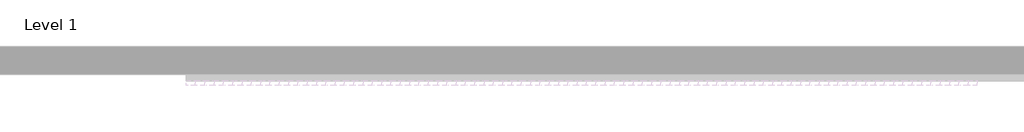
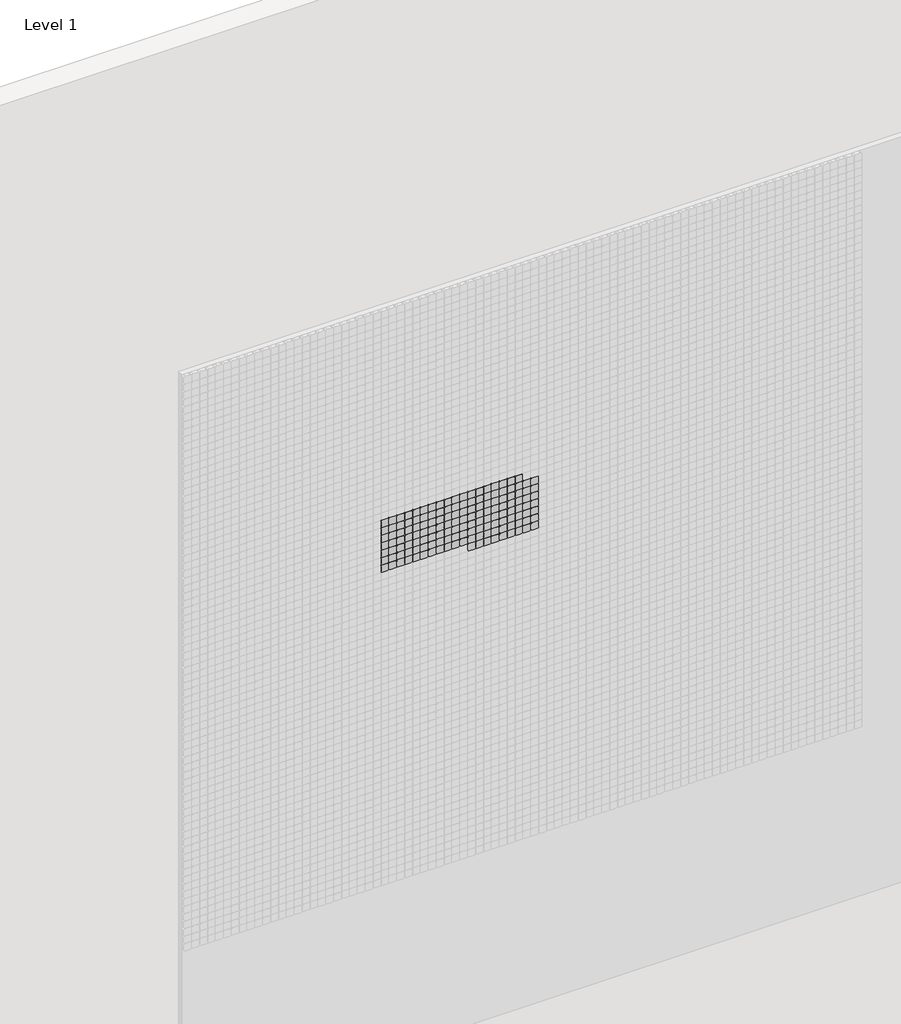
# One storey, part 25 of 71: 147 proxies.
"""IFC4 building model written with IfcOpenShell, lengths in millimetres."""

from ifc_helpers import new_model, si_unit, origin, place, context, project, spatial, transform, mapped, element, save
from components import generic_models_afde289c

model = new_model("IFC4")

# Units and contexts
model_context = context("Model", 3, world=origin())
ifc_project = project(units=[si_unit("LENGTHUNIT", "METRE", prefix="MILLI")], contexts=[model_context])

# Site, building, storey
site = spatial("IfcSite", under=ifc_project)
building = spatial("IfcBuilding", under=site)
storey = spatial("IfcBuildingStorey", under=building, Name="Level 1", Elevation=0.0)

# Proxies
placement = place(None, origin())
generic_models_shape = generic_models_afde289c(model_context)
element("IfcBuildingElementProxy", 1, Name="Pixel_M : Pixel_M", ObjectType="Pixel_M : Pixel_M", at=placement, inside=storey, context=model_context, shape_type="MappedRepresentation", body=[
    mapped(generic_models_shape, transform((6862.4280941, -75.0, 4566.3566215), x_axis=(1.0, 0.0, 0.0), y_axis=(0.0, 0.0, 1.0), z_axis=(0.0, -1.0, 0.0))),
])
element("IfcBuildingElementProxy", 2, Name="Pixel_M : Pixel_M", ObjectType="Pixel_M : Pixel_M", at=placement, inside=storey, context=model_context, shape_type="MappedRepresentation", body=[
    mapped(generic_models_shape, transform((6812.4280941, -75.0, 4566.3566215), x_axis=(1.0, 0.0, 0.0), y_axis=(0.0, 0.0, 1.0), z_axis=(0.0, -1.0, 0.0))),
])
element("IfcBuildingElementProxy", 3, Name="Pixel_M : Pixel_M", ObjectType="Pixel_M : Pixel_M", at=placement, inside=storey, context=model_context, shape_type="MappedRepresentation", body=[
    mapped(generic_models_shape, transform((6762.4280941, -75.0, 4566.3566215), x_axis=(1.0, 0.0, 0.0), y_axis=(0.0, 0.0, 1.0), z_axis=(0.0, -1.0, 0.0))),
])
element("IfcBuildingElementProxy", 4, Name="Pixel_M : Pixel_M", ObjectType="Pixel_M : Pixel_M", at=placement, inside=storey, context=model_context, shape_type="MappedRepresentation", body=[
    mapped(generic_models_shape, transform((6712.4280941, -75.0, 4566.3566215), x_axis=(1.0, 0.0, 0.0), y_axis=(0.0, 0.0, 1.0), z_axis=(0.0, -1.0, 0.0))),
])
element("IfcBuildingElementProxy", 5, Name="Pixel_M : Pixel_M", ObjectType="Pixel_M : Pixel_M", at=placement, inside=storey, context=model_context, shape_type="MappedRepresentation", body=[
    mapped(generic_models_shape, transform((6662.4280941, -75.0, 4566.3566215), x_axis=(1.0, 0.0, 0.0), y_axis=(0.0, 0.0, 1.0), z_axis=(0.0, -1.0, 0.0))),
])
element("IfcBuildingElementProxy", 6, Name="Pixel_M : Pixel_M", ObjectType="Pixel_M : Pixel_M", at=placement, inside=storey, context=model_context, shape_type="MappedRepresentation", body=[
    mapped(generic_models_shape, transform((6612.4280941, -75.0, 4566.3566215), x_axis=(1.0, 0.0, 0.0), y_axis=(0.0, 0.0, 1.0), z_axis=(0.0, -1.0, 0.0))),
])
element("IfcBuildingElementProxy", 7, Name="Pixel_M : Pixel_M", ObjectType="Pixel_M : Pixel_M", at=placement, inside=storey, context=model_context, shape_type="MappedRepresentation", body=[
    mapped(generic_models_shape, transform((6562.4280941, -75.0, 4566.3566215), x_axis=(1.0, 0.0, 0.0), y_axis=(0.0, 0.0, 1.0), z_axis=(0.0, -1.0, 0.0))),
])
element("IfcBuildingElementProxy", 8, Name="Pixel_M : Pixel_M", ObjectType="Pixel_M : Pixel_M", at=placement, inside=storey, context=model_context, shape_type="MappedRepresentation", body=[
    mapped(generic_models_shape, transform((6512.4280941, -75.0, 4566.3566215), x_axis=(1.0, 0.0, 0.0), y_axis=(0.0, 0.0, 1.0), z_axis=(0.0, -1.0, 0.0))),
])
element("IfcBuildingElementProxy", 9, Name="Pixel_M : Pixel_M", ObjectType="Pixel_M : Pixel_M", at=placement, inside=storey, context=model_context, shape_type="MappedRepresentation", body=[
    mapped(generic_models_shape, transform((6462.4280941, -75.0, 4566.3566215), x_axis=(1.0, 0.0, 0.0), y_axis=(0.0, 0.0, 1.0), z_axis=(0.0, -1.0, 0.0))),
])
element("IfcBuildingElementProxy", 10, Name="Pixel_M : Pixel_M", ObjectType="Pixel_M : Pixel_M", at=placement, inside=storey, context=model_context, shape_type="MappedRepresentation", body=[
    mapped(generic_models_shape, transform((6412.4280941, -75.0, 4566.3566215), x_axis=(1.0, 0.0, 0.0), y_axis=(0.0, 0.0, 1.0), z_axis=(0.0, -1.0, 0.0))),
])
element("IfcBuildingElementProxy", 11, Name="Pixel_M : Pixel_M", ObjectType="Pixel_M : Pixel_M", at=placement, inside=storey, context=model_context, shape_type="MappedRepresentation", body=[
    mapped(generic_models_shape, transform((6362.4280941, -75.0, 4566.3566215), x_axis=(1.0, 0.0, 0.0), y_axis=(0.0, 0.0, 1.0), z_axis=(0.0, -1.0, 0.0))),
])
element("IfcBuildingElementProxy", 12, Name="Pixel_M : Pixel_M", ObjectType="Pixel_M : Pixel_M", at=placement, inside=storey, context=model_context, shape_type="MappedRepresentation", body=[
    mapped(generic_models_shape, transform((6312.4280941, -75.0, 4566.3566215), x_axis=(1.0, 0.0, 0.0), y_axis=(0.0, 0.0, 1.0), z_axis=(0.0, -1.0, 0.0))),
])
element("IfcBuildingElementProxy", 13, Name="Pixel_M : Pixel_M", ObjectType="Pixel_M : Pixel_M", at=placement, inside=storey, context=model_context, shape_type="MappedRepresentation", body=[
    mapped(generic_models_shape, transform((6262.4280941, -75.0, 4566.3566215), x_axis=(1.0, 0.0, 0.0), y_axis=(0.0, 0.0, 1.0), z_axis=(0.0, -1.0, 0.0))),
])
element("IfcBuildingElementProxy", 14, Name="Pixel_M : Pixel_M", ObjectType="Pixel_M : Pixel_M", at=placement, inside=storey, context=model_context, shape_type="MappedRepresentation", body=[
    mapped(generic_models_shape, transform((6212.4280941, -75.0, 4566.3566215), x_axis=(1.0, 0.0, 0.0), y_axis=(0.0, 0.0, 1.0), z_axis=(0.0, -1.0, 0.0))),
])
element("IfcBuildingElementProxy", 15, Name="Pixel_M : Pixel_M", ObjectType="Pixel_M : Pixel_M", at=placement, inside=storey, context=model_context, shape_type="MappedRepresentation", body=[
    mapped(generic_models_shape, transform((6162.4280941, -75.0, 4566.3566215), x_axis=(1.0, 0.0, 0.0), y_axis=(0.0, 0.0, 1.0), z_axis=(0.0, -1.0, 0.0))),
])
element("IfcBuildingElementProxy", 16, Name="Pixel_M : Pixel_M", ObjectType="Pixel_M : Pixel_M", at=placement, inside=storey, context=model_context, shape_type="MappedRepresentation", body=[
    mapped(generic_models_shape, transform((6112.4280941, -75.0, 4566.3566215), x_axis=(1.0, 0.0, 0.0), y_axis=(0.0, 0.0, 1.0), z_axis=(0.0, -1.0, 0.0))),
])
element("IfcBuildingElementProxy", 17, Name="Pixel_M : Pixel_M", ObjectType="Pixel_M : Pixel_M", at=placement, inside=storey, context=model_context, shape_type="MappedRepresentation", body=[
    mapped(generic_models_shape, transform((6062.4280941, -75.0, 4566.3566215), x_axis=(1.0, 0.0, 0.0), y_axis=(0.0, 0.0, 1.0), z_axis=(0.0, -1.0, 0.0))),
])
element("IfcBuildingElementProxy", 18, Name="Pixel_M : Pixel_M", ObjectType="Pixel_M : Pixel_M", at=placement, inside=storey, context=model_context, shape_type="MappedRepresentation", body=[
    mapped(generic_models_shape, transform((6012.4280941, -75.0, 4566.3566215), x_axis=(1.0, 0.0, 0.0), y_axis=(0.0, 0.0, 1.0), z_axis=(0.0, -1.0, 0.0))),
])
element("IfcBuildingElementProxy", 19, Name="Pixel_M : Pixel_M", ObjectType="Pixel_M : Pixel_M", at=placement, inside=storey, context=model_context, shape_type="MappedRepresentation", body=[
    mapped(generic_models_shape, transform((6962.4280941, -75.0, 4516.3566215), x_axis=(1.0, 0.0, 0.0), y_axis=(0.0, 0.0, 1.0), z_axis=(0.0, -1.0, 0.0))),
])
element("IfcBuildingElementProxy", 20, Name="Pixel_M : Pixel_M", ObjectType="Pixel_M : Pixel_M", at=placement, inside=storey, context=model_context, shape_type="MappedRepresentation", body=[
    mapped(generic_models_shape, transform((6912.4280941, -75.0, 4516.3566215), x_axis=(1.0, 0.0, 0.0), y_axis=(0.0, 0.0, 1.0), z_axis=(0.0, -1.0, 0.0))),
])
element("IfcBuildingElementProxy", 21, Name="Pixel_M : Pixel_M", ObjectType="Pixel_M : Pixel_M", at=placement, inside=storey, context=model_context, shape_type="MappedRepresentation", body=[
    mapped(generic_models_shape, transform((6862.4280941, -75.0, 4516.3566215), x_axis=(1.0, 0.0, 0.0), y_axis=(0.0, 0.0, 1.0), z_axis=(0.0, -1.0, 0.0))),
])
element("IfcBuildingElementProxy", 22, Name="Pixel_M : Pixel_M", ObjectType="Pixel_M : Pixel_M", at=placement, inside=storey, context=model_context, shape_type="MappedRepresentation", body=[
    mapped(generic_models_shape, transform((6812.4280941, -75.0, 4516.3566215), x_axis=(1.0, 0.0, 0.0), y_axis=(0.0, 0.0, 1.0), z_axis=(0.0, -1.0, 0.0))),
])
element("IfcBuildingElementProxy", 23, Name="Pixel_M : Pixel_M", ObjectType="Pixel_M : Pixel_M", at=placement, inside=storey, context=model_context, shape_type="MappedRepresentation", body=[
    mapped(generic_models_shape, transform((6762.4280941, -75.0, 4516.3566215), x_axis=(1.0, 0.0, 0.0), y_axis=(0.0, 0.0, 1.0), z_axis=(0.0, -1.0, 0.0))),
])
element("IfcBuildingElementProxy", 24, Name="Pixel_M : Pixel_M", ObjectType="Pixel_M : Pixel_M", at=placement, inside=storey, context=model_context, shape_type="MappedRepresentation", body=[
    mapped(generic_models_shape, transform((6712.4280941, -75.0, 4516.3566215), x_axis=(1.0, 0.0, 0.0), y_axis=(0.0, 0.0, 1.0), z_axis=(0.0, -1.0, 0.0))),
])
element("IfcBuildingElementProxy", 25, Name="Pixel_M : Pixel_M", ObjectType="Pixel_M : Pixel_M", at=placement, inside=storey, context=model_context, shape_type="MappedRepresentation", body=[
    mapped(generic_models_shape, transform((6662.4280941, -75.0, 4516.3566215), x_axis=(1.0, 0.0, 0.0), y_axis=(0.0, 0.0, 1.0), z_axis=(0.0, -1.0, 0.0))),
])
element("IfcBuildingElementProxy", 26, Name="Pixel_M : Pixel_M", ObjectType="Pixel_M : Pixel_M", at=placement, inside=storey, context=model_context, shape_type="MappedRepresentation", body=[
    mapped(generic_models_shape, transform((6612.4280941, -75.0, 4516.3566215), x_axis=(1.0, 0.0, 0.0), y_axis=(0.0, 0.0, 1.0), z_axis=(0.0, -1.0, 0.0))),
])
element("IfcBuildingElementProxy", 27, Name="Pixel_M : Pixel_M", ObjectType="Pixel_M : Pixel_M", at=placement, inside=storey, context=model_context, shape_type="MappedRepresentation", body=[
    mapped(generic_models_shape, transform((6562.4280941, -75.0, 4516.3566215), x_axis=(1.0, 0.0, 0.0), y_axis=(0.0, 0.0, 1.0), z_axis=(0.0, -1.0, 0.0))),
])
element("IfcBuildingElementProxy", 28, Name="Pixel_M : Pixel_M", ObjectType="Pixel_M : Pixel_M", at=placement, inside=storey, context=model_context, shape_type="MappedRepresentation", body=[
    mapped(generic_models_shape, transform((6512.4280941, -75.0, 4516.3566215), x_axis=(1.0, 0.0, 0.0), y_axis=(0.0, 0.0, 1.0), z_axis=(0.0, -1.0, 0.0))),
])
element("IfcBuildingElementProxy", 29, Name="Pixel_M : Pixel_M", ObjectType="Pixel_M : Pixel_M", at=placement, inside=storey, context=model_context, shape_type="MappedRepresentation", body=[
    mapped(generic_models_shape, transform((6462.4280941, -75.0, 4516.3566215), x_axis=(1.0, 0.0, 0.0), y_axis=(0.0, 0.0, 1.0), z_axis=(0.0, -1.0, 0.0))),
])
element("IfcBuildingElementProxy", 30, Name="Pixel_M : Pixel_M", ObjectType="Pixel_M : Pixel_M", at=placement, inside=storey, context=model_context, shape_type="MappedRepresentation", body=[
    mapped(generic_models_shape, transform((6412.4280941, -75.0, 4516.3566215), x_axis=(1.0, 0.0, 0.0), y_axis=(0.0, 0.0, 1.0), z_axis=(0.0, -1.0, 0.0))),
])
element("IfcBuildingElementProxy", 31, Name="Pixel_M : Pixel_M", ObjectType="Pixel_M : Pixel_M", at=placement, inside=storey, context=model_context, shape_type="MappedRepresentation", body=[
    mapped(generic_models_shape, transform((6362.4280941, -75.0, 4516.3566215), x_axis=(1.0, 0.0, 0.0), y_axis=(0.0, 0.0, 1.0), z_axis=(0.0, -1.0, 0.0))),
])
element("IfcBuildingElementProxy", 32, Name="Pixel_M : Pixel_M", ObjectType="Pixel_M : Pixel_M", at=placement, inside=storey, context=model_context, shape_type="MappedRepresentation", body=[
    mapped(generic_models_shape, transform((6312.4280941, -75.0, 4516.3566215), x_axis=(1.0, 0.0, 0.0), y_axis=(0.0, 0.0, 1.0), z_axis=(0.0, -1.0, 0.0))),
])
element("IfcBuildingElementProxy", 33, Name="Pixel_M : Pixel_M", ObjectType="Pixel_M : Pixel_M", at=placement, inside=storey, context=model_context, shape_type="MappedRepresentation", body=[
    mapped(generic_models_shape, transform((6262.4280941, -75.0, 4516.3566215), x_axis=(1.0, 0.0, 0.0), y_axis=(0.0, 0.0, 1.0), z_axis=(0.0, -1.0, 0.0))),
])
element("IfcBuildingElementProxy", 34, Name="Pixel_M : Pixel_M", ObjectType="Pixel_M : Pixel_M", at=placement, inside=storey, context=model_context, shape_type="MappedRepresentation", body=[
    mapped(generic_models_shape, transform((6212.4280941, -75.0, 4516.3566215), x_axis=(1.0, 0.0, 0.0), y_axis=(0.0, 0.0, 1.0), z_axis=(0.0, -1.0, 0.0))),
])
element("IfcBuildingElementProxy", 35, Name="Pixel_M : Pixel_M", ObjectType="Pixel_M : Pixel_M", at=placement, inside=storey, context=model_context, shape_type="MappedRepresentation", body=[
    mapped(generic_models_shape, transform((6162.4280941, -75.0, 4516.3566215), x_axis=(1.0, 0.0, 0.0), y_axis=(0.0, 0.0, 1.0), z_axis=(0.0, -1.0, 0.0))),
])
element("IfcBuildingElementProxy", 36, Name="Pixel_M : Pixel_M", ObjectType="Pixel_M : Pixel_M", at=placement, inside=storey, context=model_context, shape_type="MappedRepresentation", body=[
    mapped(generic_models_shape, transform((6112.4280941, -75.0, 4516.3566215), x_axis=(1.0, 0.0, 0.0), y_axis=(0.0, 0.0, 1.0), z_axis=(0.0, -1.0, 0.0))),
])
element("IfcBuildingElementProxy", 37, Name="Pixel_M : Pixel_M", ObjectType="Pixel_M : Pixel_M", at=placement, inside=storey, context=model_context, shape_type="MappedRepresentation", body=[
    mapped(generic_models_shape, transform((6062.4280941, -75.0, 4516.3566215), x_axis=(1.0, 0.0, 0.0), y_axis=(0.0, 0.0, 1.0), z_axis=(0.0, -1.0, 0.0))),
])
element("IfcBuildingElementProxy", 38, Name="Pixel_M : Pixel_M", ObjectType="Pixel_M : Pixel_M", at=placement, inside=storey, context=model_context, shape_type="MappedRepresentation", body=[
    mapped(generic_models_shape, transform((6012.4280941, -75.0, 4516.3566215), x_axis=(1.0, 0.0, 0.0), y_axis=(0.0, 0.0, 1.0), z_axis=(0.0, -1.0, 0.0))),
])
element("IfcBuildingElementProxy", 39, Name="Pixel_M : Pixel_M", ObjectType="Pixel_M : Pixel_M", at=placement, inside=storey, context=model_context, shape_type="MappedRepresentation", body=[
    mapped(generic_models_shape, transform((6962.4280941, -75.0, 4466.3566215), x_axis=(1.0, 0.0, 0.0), y_axis=(0.0, 0.0, 1.0), z_axis=(0.0, -1.0, 0.0))),
])
element("IfcBuildingElementProxy", 40, Name="Pixel_M : Pixel_M", ObjectType="Pixel_M : Pixel_M", at=placement, inside=storey, context=model_context, shape_type="MappedRepresentation", body=[
    mapped(generic_models_shape, transform((6912.4280941, -75.0, 4466.3566215), x_axis=(1.0, 0.0, 0.0), y_axis=(0.0, 0.0, 1.0), z_axis=(0.0, -1.0, 0.0))),
])
element("IfcBuildingElementProxy", 41, Name="Pixel_M : Pixel_M", ObjectType="Pixel_M : Pixel_M", at=placement, inside=storey, context=model_context, shape_type="MappedRepresentation", body=[
    mapped(generic_models_shape, transform((6862.4280941, -75.0, 4466.3566215), x_axis=(1.0, 0.0, 0.0), y_axis=(0.0, 0.0, 1.0), z_axis=(0.0, -1.0, 0.0))),
])
element("IfcBuildingElementProxy", 42, Name="Pixel_M : Pixel_M", ObjectType="Pixel_M : Pixel_M", at=placement, inside=storey, context=model_context, shape_type="MappedRepresentation", body=[
    mapped(generic_models_shape, transform((6812.4280941, -75.0, 4466.3566215), x_axis=(1.0, 0.0, 0.0), y_axis=(0.0, 0.0, 1.0), z_axis=(0.0, -1.0, 0.0))),
])
element("IfcBuildingElementProxy", 43, Name="Pixel_M : Pixel_M", ObjectType="Pixel_M : Pixel_M", at=placement, inside=storey, context=model_context, shape_type="MappedRepresentation", body=[
    mapped(generic_models_shape, transform((6762.4280941, -75.0, 4466.3566215), x_axis=(1.0, 0.0, 0.0), y_axis=(0.0, 0.0, 1.0), z_axis=(0.0, -1.0, 0.0))),
])
element("IfcBuildingElementProxy", 44, Name="Pixel_M : Pixel_M", ObjectType="Pixel_M : Pixel_M", at=placement, inside=storey, context=model_context, shape_type="MappedRepresentation", body=[
    mapped(generic_models_shape, transform((6712.4280941, -75.0, 4466.3566215), x_axis=(1.0, 0.0, 0.0), y_axis=(0.0, 0.0, 1.0), z_axis=(0.0, -1.0, 0.0))),
])
element("IfcBuildingElementProxy", 45, Name="Pixel_M : Pixel_M", ObjectType="Pixel_M : Pixel_M", at=placement, inside=storey, context=model_context, shape_type="MappedRepresentation", body=[
    mapped(generic_models_shape, transform((6662.4280941, -75.0, 4466.3566215), x_axis=(1.0, 0.0, 0.0), y_axis=(0.0, 0.0, 1.0), z_axis=(0.0, -1.0, 0.0))),
])
element("IfcBuildingElementProxy", 46, Name="Pixel_M : Pixel_M", ObjectType="Pixel_M : Pixel_M", at=placement, inside=storey, context=model_context, shape_type="MappedRepresentation", body=[
    mapped(generic_models_shape, transform((6612.4280941, -75.0, 4466.3566215), x_axis=(1.0, 0.0, 0.0), y_axis=(0.0, 0.0, 1.0), z_axis=(0.0, -1.0, 0.0))),
])
element("IfcBuildingElementProxy", 47, Name="Pixel_M : Pixel_M", ObjectType="Pixel_M : Pixel_M", at=placement, inside=storey, context=model_context, shape_type="MappedRepresentation", body=[
    mapped(generic_models_shape, transform((6562.4280941, -75.0, 4466.3566215), x_axis=(1.0, 0.0, 0.0), y_axis=(0.0, 0.0, 1.0), z_axis=(0.0, -1.0, 0.0))),
])
element("IfcBuildingElementProxy", 48, Name="Pixel_M : Pixel_M", ObjectType="Pixel_M : Pixel_M", at=placement, inside=storey, context=model_context, shape_type="MappedRepresentation", body=[
    mapped(generic_models_shape, transform((6512.4280941, -75.0, 4466.3566215), x_axis=(1.0, 0.0, 0.0), y_axis=(0.0, 0.0, 1.0), z_axis=(0.0, -1.0, 0.0))),
])
element("IfcBuildingElementProxy", 49, Name="Pixel_M : Pixel_M", ObjectType="Pixel_M : Pixel_M", at=placement, inside=storey, context=model_context, shape_type="MappedRepresentation", body=[
    mapped(generic_models_shape, transform((6462.4280941, -75.0, 4466.3566215), x_axis=(1.0, 0.0, 0.0), y_axis=(0.0, 0.0, 1.0), z_axis=(0.0, -1.0, 0.0))),
])
element("IfcBuildingElementProxy", 50, Name="Pixel_M : Pixel_M", ObjectType="Pixel_M : Pixel_M", at=placement, inside=storey, context=model_context, shape_type="MappedRepresentation", body=[
    mapped(generic_models_shape, transform((6412.4280941, -75.0, 4466.3566215), x_axis=(1.0, 0.0, 0.0), y_axis=(0.0, 0.0, 1.0), z_axis=(0.0, -1.0, 0.0))),
])
element("IfcBuildingElementProxy", 51, Name="Pixel_M : Pixel_M", ObjectType="Pixel_M : Pixel_M", at=placement, inside=storey, context=model_context, shape_type="MappedRepresentation", body=[
    mapped(generic_models_shape, transform((6362.4280941, -75.0, 4466.3566215), x_axis=(1.0, 0.0, 0.0), y_axis=(0.0, 0.0, 1.0), z_axis=(0.0, -1.0, 0.0))),
])
element("IfcBuildingElementProxy", 52, Name="Pixel_M : Pixel_M", ObjectType="Pixel_M : Pixel_M", at=placement, inside=storey, context=model_context, shape_type="MappedRepresentation", body=[
    mapped(generic_models_shape, transform((6312.4280941, -75.0, 4466.3566215), x_axis=(1.0, 0.0, 0.0), y_axis=(0.0, 0.0, 1.0), z_axis=(0.0, -1.0, 0.0))),
])
element("IfcBuildingElementProxy", 53, Name="Pixel_M : Pixel_M", ObjectType="Pixel_M : Pixel_M", at=placement, inside=storey, context=model_context, shape_type="MappedRepresentation", body=[
    mapped(generic_models_shape, transform((6262.4280941, -75.0, 4466.3566215), x_axis=(1.0, 0.0, 0.0), y_axis=(0.0, 0.0, 1.0), z_axis=(0.0, -1.0, 0.0))),
])
element("IfcBuildingElementProxy", 54, Name="Pixel_M : Pixel_M", ObjectType="Pixel_M : Pixel_M", at=placement, inside=storey, context=model_context, shape_type="MappedRepresentation", body=[
    mapped(generic_models_shape, transform((6212.4280941, -75.0, 4466.3566215), x_axis=(1.0, 0.0, 0.0), y_axis=(0.0, 0.0, 1.0), z_axis=(0.0, -1.0, 0.0))),
])
element("IfcBuildingElementProxy", 55, Name="Pixel_M : Pixel_M", ObjectType="Pixel_M : Pixel_M", at=placement, inside=storey, context=model_context, shape_type="MappedRepresentation", body=[
    mapped(generic_models_shape, transform((6162.4280941, -75.0, 4466.3566215), x_axis=(1.0, 0.0, 0.0), y_axis=(0.0, 0.0, 1.0), z_axis=(0.0, -1.0, 0.0))),
])
element("IfcBuildingElementProxy", 56, Name="Pixel_M : Pixel_M", ObjectType="Pixel_M : Pixel_M", at=placement, inside=storey, context=model_context, shape_type="MappedRepresentation", body=[
    mapped(generic_models_shape, transform((6112.4280941, -75.0, 4466.3566215), x_axis=(1.0, 0.0, 0.0), y_axis=(0.0, 0.0, 1.0), z_axis=(0.0, -1.0, 0.0))),
])
element("IfcBuildingElementProxy", 57, Name="Pixel_M : Pixel_M", ObjectType="Pixel_M : Pixel_M", at=placement, inside=storey, context=model_context, shape_type="MappedRepresentation", body=[
    mapped(generic_models_shape, transform((6062.4280941, -75.0, 4466.3566215), x_axis=(1.0, 0.0, 0.0), y_axis=(0.0, 0.0, 1.0), z_axis=(0.0, -1.0, 0.0))),
])
element("IfcBuildingElementProxy", 58, Name="Pixel_M : Pixel_M", ObjectType="Pixel_M : Pixel_M", at=placement, inside=storey, context=model_context, shape_type="MappedRepresentation", body=[
    mapped(generic_models_shape, transform((6012.4280941, -75.0, 4466.3566215), x_axis=(1.0, 0.0, 0.0), y_axis=(0.0, 0.0, 1.0), z_axis=(0.0, -1.0, 0.0))),
])
element("IfcBuildingElementProxy", 59, Name="Pixel_M : Pixel_M", ObjectType="Pixel_M : Pixel_M", at=placement, inside=storey, context=model_context, shape_type="MappedRepresentation", body=[
    mapped(generic_models_shape, transform((6962.4280941, -75.0, 4416.3566215), x_axis=(1.0, 0.0, 0.0), y_axis=(0.0, 0.0, 1.0), z_axis=(0.0, -1.0, 0.0))),
])
element("IfcBuildingElementProxy", 60, Name="Pixel_M : Pixel_M", ObjectType="Pixel_M : Pixel_M", at=placement, inside=storey, context=model_context, shape_type="MappedRepresentation", body=[
    mapped(generic_models_shape, transform((6912.4280941, -75.0, 4416.3566215), x_axis=(1.0, 0.0, 0.0), y_axis=(0.0, 0.0, 1.0), z_axis=(0.0, -1.0, 0.0))),
])
element("IfcBuildingElementProxy", 61, Name="Pixel_M : Pixel_M", ObjectType="Pixel_M : Pixel_M", at=placement, inside=storey, context=model_context, shape_type="MappedRepresentation", body=[
    mapped(generic_models_shape, transform((6862.4280941, -75.0, 4416.3566215), x_axis=(1.0, 0.0, 0.0), y_axis=(0.0, 0.0, 1.0), z_axis=(0.0, -1.0, 0.0))),
])
element("IfcBuildingElementProxy", 62, Name="Pixel_M : Pixel_M", ObjectType="Pixel_M : Pixel_M", at=placement, inside=storey, context=model_context, shape_type="MappedRepresentation", body=[
    mapped(generic_models_shape, transform((6812.4280941, -75.0, 4416.3566215), x_axis=(1.0, 0.0, 0.0), y_axis=(0.0, 0.0, 1.0), z_axis=(0.0, -1.0, 0.0))),
])
element("IfcBuildingElementProxy", 63, Name="Pixel_M : Pixel_M", ObjectType="Pixel_M : Pixel_M", at=placement, inside=storey, context=model_context, shape_type="MappedRepresentation", body=[
    mapped(generic_models_shape, transform((6762.4280941, -75.0, 4416.3566215), x_axis=(1.0, 0.0, 0.0), y_axis=(0.0, 0.0, 1.0), z_axis=(0.0, -1.0, 0.0))),
])
element("IfcBuildingElementProxy", 64, Name="Pixel_M : Pixel_M", ObjectType="Pixel_M : Pixel_M", at=placement, inside=storey, context=model_context, shape_type="MappedRepresentation", body=[
    mapped(generic_models_shape, transform((6712.4280941, -75.0, 4416.3566215), x_axis=(1.0, 0.0, 0.0), y_axis=(0.0, 0.0, 1.0), z_axis=(0.0, -1.0, 0.0))),
])
element("IfcBuildingElementProxy", 65, Name="Pixel_M : Pixel_M", ObjectType="Pixel_M : Pixel_M", at=placement, inside=storey, context=model_context, shape_type="MappedRepresentation", body=[
    mapped(generic_models_shape, transform((6662.4280941, -75.0, 4416.3566215), x_axis=(1.0, 0.0, 0.0), y_axis=(0.0, 0.0, 1.0), z_axis=(0.0, -1.0, 0.0))),
])
element("IfcBuildingElementProxy", 66, Name="Pixel_M : Pixel_M", ObjectType="Pixel_M : Pixel_M", at=placement, inside=storey, context=model_context, shape_type="MappedRepresentation", body=[
    mapped(generic_models_shape, transform((6612.4280941, -75.0, 4416.3566215), x_axis=(1.0, 0.0, 0.0), y_axis=(0.0, 0.0, 1.0), z_axis=(0.0, -1.0, 0.0))),
])
element("IfcBuildingElementProxy", 67, Name="Pixel_M : Pixel_M", ObjectType="Pixel_M : Pixel_M", at=placement, inside=storey, context=model_context, shape_type="MappedRepresentation", body=[
    mapped(generic_models_shape, transform((6562.4280941, -75.0, 4416.3566215), x_axis=(1.0, 0.0, 0.0), y_axis=(0.0, 0.0, 1.0), z_axis=(0.0, -1.0, 0.0))),
])
element("IfcBuildingElementProxy", 68, Name="Pixel_M : Pixel_M", ObjectType="Pixel_M : Pixel_M", at=placement, inside=storey, context=model_context, shape_type="MappedRepresentation", body=[
    mapped(generic_models_shape, transform((6512.4280941, -75.0, 4416.3566215), x_axis=(1.0, 0.0, 0.0), y_axis=(0.0, 0.0, 1.0), z_axis=(0.0, -1.0, 0.0))),
])
element("IfcBuildingElementProxy", 69, Name="Pixel_M : Pixel_M", ObjectType="Pixel_M : Pixel_M", at=placement, inside=storey, context=model_context, shape_type="MappedRepresentation", body=[
    mapped(generic_models_shape, transform((6462.4280941, -75.0, 4416.3566215), x_axis=(1.0, 0.0, 0.0), y_axis=(0.0, 0.0, 1.0), z_axis=(0.0, -1.0, 0.0))),
])
element("IfcBuildingElementProxy", 70, Name="Pixel_M : Pixel_M", ObjectType="Pixel_M : Pixel_M", at=placement, inside=storey, context=model_context, shape_type="MappedRepresentation", body=[
    mapped(generic_models_shape, transform((6412.4280941, -75.0, 4416.3566215), x_axis=(1.0, 0.0, 0.0), y_axis=(0.0, 0.0, 1.0), z_axis=(0.0, -1.0, 0.0))),
])
element("IfcBuildingElementProxy", 71, Name="Pixel_M : Pixel_M", ObjectType="Pixel_M : Pixel_M", at=placement, inside=storey, context=model_context, shape_type="MappedRepresentation", body=[
    mapped(generic_models_shape, transform((6362.4280941, -75.0, 4416.3566215), x_axis=(1.0, 0.0, 0.0), y_axis=(0.0, 0.0, 1.0), z_axis=(0.0, -1.0, 0.0))),
])
element("IfcBuildingElementProxy", 72, Name="Pixel_M : Pixel_M", ObjectType="Pixel_M : Pixel_M", at=placement, inside=storey, context=model_context, shape_type="MappedRepresentation", body=[
    mapped(generic_models_shape, transform((6312.4280941, -75.0, 4416.3566215), x_axis=(1.0, 0.0, 0.0), y_axis=(0.0, 0.0, 1.0), z_axis=(0.0, -1.0, 0.0))),
])
element("IfcBuildingElementProxy", 73, Name="Pixel_M : Pixel_M", ObjectType="Pixel_M : Pixel_M", at=placement, inside=storey, context=model_context, shape_type="MappedRepresentation", body=[
    mapped(generic_models_shape, transform((6262.4280941, -75.0, 4416.3566215), x_axis=(1.0, 0.0, 0.0), y_axis=(0.0, 0.0, 1.0), z_axis=(0.0, -1.0, 0.0))),
])
element("IfcBuildingElementProxy", 74, Name="Pixel_M : Pixel_M", ObjectType="Pixel_M : Pixel_M", at=placement, inside=storey, context=model_context, shape_type="MappedRepresentation", body=[
    mapped(generic_models_shape, transform((6212.4280941, -75.0, 4416.3566215), x_axis=(1.0, 0.0, 0.0), y_axis=(0.0, 0.0, 1.0), z_axis=(0.0, -1.0, 0.0))),
])
element("IfcBuildingElementProxy", 75, Name="Pixel_M : Pixel_M", ObjectType="Pixel_M : Pixel_M", at=placement, inside=storey, context=model_context, shape_type="MappedRepresentation", body=[
    mapped(generic_models_shape, transform((6162.4280941, -75.0, 4416.3566215), x_axis=(1.0, 0.0, 0.0), y_axis=(0.0, 0.0, 1.0), z_axis=(0.0, -1.0, 0.0))),
])
element("IfcBuildingElementProxy", 76, Name="Pixel_M : Pixel_M", ObjectType="Pixel_M : Pixel_M", at=placement, inside=storey, context=model_context, shape_type="MappedRepresentation", body=[
    mapped(generic_models_shape, transform((6112.4280941, -75.0, 4416.3566215), x_axis=(1.0, 0.0, 0.0), y_axis=(0.0, 0.0, 1.0), z_axis=(0.0, -1.0, 0.0))),
])
element("IfcBuildingElementProxy", 77, Name="Pixel_M : Pixel_M", ObjectType="Pixel_M : Pixel_M", at=placement, inside=storey, context=model_context, shape_type="MappedRepresentation", body=[
    mapped(generic_models_shape, transform((6062.4280941, -75.0, 4416.3566215), x_axis=(1.0, 0.0, 0.0), y_axis=(0.0, 0.0, 1.0), z_axis=(0.0, -1.0, 0.0))),
])
element("IfcBuildingElementProxy", 78, Name="Pixel_M : Pixel_M", ObjectType="Pixel_M : Pixel_M", at=placement, inside=storey, context=model_context, shape_type="MappedRepresentation", body=[
    mapped(generic_models_shape, transform((6012.4280941, -75.0, 4416.3566215), x_axis=(1.0, 0.0, 0.0), y_axis=(0.0, 0.0, 1.0), z_axis=(0.0, -1.0, 0.0))),
])
element("IfcBuildingElementProxy", 79, Name="Pixel_M : Pixel_M", ObjectType="Pixel_M : Pixel_M", at=placement, inside=storey, context=model_context, shape_type="MappedRepresentation", body=[
    mapped(generic_models_shape, transform((6962.4280941, -75.0, 4366.3566215), x_axis=(1.0, 0.0, 0.0), y_axis=(0.0, 0.0, 1.0), z_axis=(0.0, -1.0, 0.0))),
])
element("IfcBuildingElementProxy", 80, Name="Pixel_M : Pixel_M", ObjectType="Pixel_M : Pixel_M", at=placement, inside=storey, context=model_context, shape_type="MappedRepresentation", body=[
    mapped(generic_models_shape, transform((6912.4280941, -75.0, 4366.3566215), x_axis=(1.0, 0.0, 0.0), y_axis=(0.0, 0.0, 1.0), z_axis=(0.0, -1.0, 0.0))),
])
element("IfcBuildingElementProxy", 81, Name="Pixel_M : Pixel_M", ObjectType="Pixel_M : Pixel_M", at=placement, inside=storey, context=model_context, shape_type="MappedRepresentation", body=[
    mapped(generic_models_shape, transform((6862.4280941, -75.0, 4366.3566215), x_axis=(1.0, 0.0, 0.0), y_axis=(0.0, 0.0, 1.0), z_axis=(0.0, -1.0, 0.0))),
])
element("IfcBuildingElementProxy", 82, Name="Pixel_M : Pixel_M", ObjectType="Pixel_M : Pixel_M", at=placement, inside=storey, context=model_context, shape_type="MappedRepresentation", body=[
    mapped(generic_models_shape, transform((6812.4280941, -75.0, 4366.3566215), x_axis=(1.0, 0.0, 0.0), y_axis=(0.0, 0.0, 1.0), z_axis=(0.0, -1.0, 0.0))),
])
element("IfcBuildingElementProxy", 83, Name="Pixel_M : Pixel_M", ObjectType="Pixel_M : Pixel_M", at=placement, inside=storey, context=model_context, shape_type="MappedRepresentation", body=[
    mapped(generic_models_shape, transform((6762.4280941, -75.0, 4366.3566215), x_axis=(1.0, 0.0, 0.0), y_axis=(0.0, 0.0, 1.0), z_axis=(0.0, -1.0, 0.0))),
])
element("IfcBuildingElementProxy", 84, Name="Pixel_M : Pixel_M", ObjectType="Pixel_M : Pixel_M", at=placement, inside=storey, context=model_context, shape_type="MappedRepresentation", body=[
    mapped(generic_models_shape, transform((6712.4280941, -75.0, 4366.3566215), x_axis=(1.0, 0.0, 0.0), y_axis=(0.0, 0.0, 1.0), z_axis=(0.0, -1.0, 0.0))),
])
element("IfcBuildingElementProxy", 85, Name="Pixel_M : Pixel_M", ObjectType="Pixel_M : Pixel_M", at=placement, inside=storey, context=model_context, shape_type="MappedRepresentation", body=[
    mapped(generic_models_shape, transform((6662.4280941, -75.0, 4366.3566215), x_axis=(1.0, 0.0, 0.0), y_axis=(0.0, 0.0, 1.0), z_axis=(0.0, -1.0, 0.0))),
])
element("IfcBuildingElementProxy", 86, Name="Pixel_M : Pixel_M", ObjectType="Pixel_M : Pixel_M", at=placement, inside=storey, context=model_context, shape_type="MappedRepresentation", body=[
    mapped(generic_models_shape, transform((6612.4280941, -75.0, 4366.3566215), x_axis=(1.0, 0.0, 0.0), y_axis=(0.0, 0.0, 1.0), z_axis=(0.0, -1.0, 0.0))),
])
element("IfcBuildingElementProxy", 87, Name="Pixel_M : Pixel_M", ObjectType="Pixel_M : Pixel_M", at=placement, inside=storey, context=model_context, shape_type="MappedRepresentation", body=[
    mapped(generic_models_shape, transform((6562.4280941, -75.0, 4366.3566215), x_axis=(1.0, 0.0, 0.0), y_axis=(0.0, 0.0, 1.0), z_axis=(0.0, -1.0, 0.0))),
])
element("IfcBuildingElementProxy", 88, Name="Pixel_M : Pixel_M", ObjectType="Pixel_M : Pixel_M", at=placement, inside=storey, context=model_context, shape_type="MappedRepresentation", body=[
    mapped(generic_models_shape, transform((6512.4280941, -75.0, 4366.3566215), x_axis=(1.0, 0.0, 0.0), y_axis=(0.0, 0.0, 1.0), z_axis=(0.0, -1.0, 0.0))),
])
element("IfcBuildingElementProxy", 89, Name="Pixel_M : Pixel_M", ObjectType="Pixel_M : Pixel_M", at=placement, inside=storey, context=model_context, shape_type="MappedRepresentation", body=[
    mapped(generic_models_shape, transform((6462.4280941, -75.0, 4366.3566215), x_axis=(1.0, 0.0, 0.0), y_axis=(0.0, 0.0, 1.0), z_axis=(0.0, -1.0, 0.0))),
])
element("IfcBuildingElementProxy", 90, Name="Pixel_M : Pixel_M", ObjectType="Pixel_M : Pixel_M", at=placement, inside=storey, context=model_context, shape_type="MappedRepresentation", body=[
    mapped(generic_models_shape, transform((6412.4280941, -75.0, 4366.3566215), x_axis=(1.0, 0.0, 0.0), y_axis=(0.0, 0.0, 1.0), z_axis=(0.0, -1.0, 0.0))),
])
element("IfcBuildingElementProxy", 91, Name="Pixel_M : Pixel_M", ObjectType="Pixel_M : Pixel_M", at=placement, inside=storey, context=model_context, shape_type="MappedRepresentation", body=[
    mapped(generic_models_shape, transform((6362.4280941, -75.0, 4366.3566215), x_axis=(1.0, 0.0, 0.0), y_axis=(0.0, 0.0, 1.0), z_axis=(0.0, -1.0, 0.0))),
])
element("IfcBuildingElementProxy", 92, Name="Pixel_M : Pixel_M", ObjectType="Pixel_M : Pixel_M", at=placement, inside=storey, context=model_context, shape_type="MappedRepresentation", body=[
    mapped(generic_models_shape, transform((6312.4280941, -75.0, 4366.3566215), x_axis=(1.0, 0.0, 0.0), y_axis=(0.0, 0.0, 1.0), z_axis=(0.0, -1.0, 0.0))),
])
element("IfcBuildingElementProxy", 93, Name="Pixel_M : Pixel_M", ObjectType="Pixel_M : Pixel_M", at=placement, inside=storey, context=model_context, shape_type="MappedRepresentation", body=[
    mapped(generic_models_shape, transform((6262.4280941, -75.0, 4366.3566215), x_axis=(1.0, 0.0, 0.0), y_axis=(0.0, 0.0, 1.0), z_axis=(0.0, -1.0, 0.0))),
])
element("IfcBuildingElementProxy", 94, Name="Pixel_M : Pixel_M", ObjectType="Pixel_M : Pixel_M", at=placement, inside=storey, context=model_context, shape_type="MappedRepresentation", body=[
    mapped(generic_models_shape, transform((6212.4280941, -75.0, 4366.3566215), x_axis=(1.0, 0.0, 0.0), y_axis=(0.0, 0.0, 1.0), z_axis=(0.0, -1.0, 0.0))),
])
element("IfcBuildingElementProxy", 95, Name="Pixel_M : Pixel_M", ObjectType="Pixel_M : Pixel_M", at=placement, inside=storey, context=model_context, shape_type="MappedRepresentation", body=[
    mapped(generic_models_shape, transform((6162.4280941, -75.0, 4366.3566215), x_axis=(1.0, 0.0, 0.0), y_axis=(0.0, 0.0, 1.0), z_axis=(0.0, -1.0, 0.0))),
])
element("IfcBuildingElementProxy", 96, Name="Pixel_M : Pixel_M", ObjectType="Pixel_M : Pixel_M", at=placement, inside=storey, context=model_context, shape_type="MappedRepresentation", body=[
    mapped(generic_models_shape, transform((6112.4280941, -75.0, 4366.3566215), x_axis=(1.0, 0.0, 0.0), y_axis=(0.0, 0.0, 1.0), z_axis=(0.0, -1.0, 0.0))),
])
element("IfcBuildingElementProxy", 97, Name="Pixel_M : Pixel_M", ObjectType="Pixel_M : Pixel_M", at=placement, inside=storey, context=model_context, shape_type="MappedRepresentation", body=[
    mapped(generic_models_shape, transform((6062.4280941, -75.0, 4366.3566215), x_axis=(1.0, 0.0, 0.0), y_axis=(0.0, 0.0, 1.0), z_axis=(0.0, -1.0, 0.0))),
])
element("IfcBuildingElementProxy", 98, Name="Pixel_M : Pixel_M", ObjectType="Pixel_M : Pixel_M", at=placement, inside=storey, context=model_context, shape_type="MappedRepresentation", body=[
    mapped(generic_models_shape, transform((6012.4280941, -75.0, 4366.3566215), x_axis=(1.0, 0.0, 0.0), y_axis=(0.0, 0.0, 1.0), z_axis=(0.0, -1.0, 0.0))),
])
element("IfcBuildingElementProxy", 99, Name="Pixel_M : Pixel_M", ObjectType="Pixel_M : Pixel_M", at=placement, inside=storey, context=model_context, shape_type="MappedRepresentation", body=[
    mapped(generic_models_shape, transform((6962.4280941, -75.0, 4316.3566215), x_axis=(1.0, 0.0, 0.0), y_axis=(0.0, 0.0, 1.0), z_axis=(0.0, -1.0, 0.0))),
])
element("IfcBuildingElementProxy", 100, Name="Pixel_M : Pixel_M", ObjectType="Pixel_M : Pixel_M", at=placement, inside=storey, context=model_context, shape_type="MappedRepresentation", body=[
    mapped(generic_models_shape, transform((6912.4280941, -75.0, 4316.3566215), x_axis=(1.0, 0.0, 0.0), y_axis=(0.0, 0.0, 1.0), z_axis=(0.0, -1.0, 0.0))),
])
element("IfcBuildingElementProxy", 101, Name="Pixel_M : Pixel_M", ObjectType="Pixel_M : Pixel_M", at=placement, inside=storey, context=model_context, shape_type="MappedRepresentation", body=[
    mapped(generic_models_shape, transform((6862.4280941, -75.0, 4316.3566215), x_axis=(1.0, 0.0, 0.0), y_axis=(0.0, 0.0, 1.0), z_axis=(0.0, -1.0, 0.0))),
])
element("IfcBuildingElementProxy", 102, Name="Pixel_M : Pixel_M", ObjectType="Pixel_M : Pixel_M", at=placement, inside=storey, context=model_context, shape_type="MappedRepresentation", body=[
    mapped(generic_models_shape, transform((6812.4280941, -75.0, 4316.3566215), x_axis=(1.0, 0.0, 0.0), y_axis=(0.0, 0.0, 1.0), z_axis=(0.0, -1.0, 0.0))),
])
element("IfcBuildingElementProxy", 103, Name="Pixel_M : Pixel_M", ObjectType="Pixel_M : Pixel_M", at=placement, inside=storey, context=model_context, shape_type="MappedRepresentation", body=[
    mapped(generic_models_shape, transform((6762.4280941, -75.0, 4316.3566215), x_axis=(1.0, 0.0, 0.0), y_axis=(0.0, 0.0, 1.0), z_axis=(0.0, -1.0, 0.0))),
])
element("IfcBuildingElementProxy", 104, Name="Pixel_M : Pixel_M", ObjectType="Pixel_M : Pixel_M", at=placement, inside=storey, context=model_context, shape_type="MappedRepresentation", body=[
    mapped(generic_models_shape, transform((6712.4280941, -75.0, 4316.3566215), x_axis=(1.0, 0.0, 0.0), y_axis=(0.0, 0.0, 1.0), z_axis=(0.0, -1.0, 0.0))),
])
element("IfcBuildingElementProxy", 105, Name="Pixel_M : Pixel_M", ObjectType="Pixel_M : Pixel_M", at=placement, inside=storey, context=model_context, shape_type="MappedRepresentation", body=[
    mapped(generic_models_shape, transform((6662.4280941, -75.0, 4316.3566215), x_axis=(1.0, 0.0, 0.0), y_axis=(0.0, 0.0, 1.0), z_axis=(0.0, -1.0, 0.0))),
])
element("IfcBuildingElementProxy", 106, Name="Pixel_M : Pixel_M", ObjectType="Pixel_M : Pixel_M", at=placement, inside=storey, context=model_context, shape_type="MappedRepresentation", body=[
    mapped(generic_models_shape, transform((6612.4280941, -75.0, 4316.3566215), x_axis=(1.0, 0.0, 0.0), y_axis=(0.0, 0.0, 1.0), z_axis=(0.0, -1.0, 0.0))),
])
element("IfcBuildingElementProxy", 107, Name="Pixel_M : Pixel_M", ObjectType="Pixel_M : Pixel_M", at=placement, inside=storey, context=model_context, shape_type="MappedRepresentation", body=[
    mapped(generic_models_shape, transform((6562.4280941, -75.0, 4316.3566215), x_axis=(1.0, 0.0, 0.0), y_axis=(0.0, 0.0, 1.0), z_axis=(0.0, -1.0, 0.0))),
])
element("IfcBuildingElementProxy", 108, Name="Pixel_M : Pixel_M", ObjectType="Pixel_M : Pixel_M", at=placement, inside=storey, context=model_context, shape_type="MappedRepresentation", body=[
    mapped(generic_models_shape, transform((6512.4280941, -75.0, 4316.3566215), x_axis=(1.0, 0.0, 0.0), y_axis=(0.0, 0.0, 1.0), z_axis=(0.0, -1.0, 0.0))),
])
element("IfcBuildingElementProxy", 109, Name="Pixel_M : Pixel_M", ObjectType="Pixel_M : Pixel_M", at=placement, inside=storey, context=model_context, shape_type="MappedRepresentation", body=[
    mapped(generic_models_shape, transform((6462.4280941, -75.0, 4316.3566215), x_axis=(1.0, 0.0, 0.0), y_axis=(0.0, 0.0, 1.0), z_axis=(0.0, -1.0, 0.0))),
])
element("IfcBuildingElementProxy", 110, Name="Pixel_M : Pixel_M", ObjectType="Pixel_M : Pixel_M", at=placement, inside=storey, context=model_context, shape_type="MappedRepresentation", body=[
    mapped(generic_models_shape, transform((6412.4280941, -75.0, 4316.3566215), x_axis=(1.0, 0.0, 0.0), y_axis=(0.0, 0.0, 1.0), z_axis=(0.0, -1.0, 0.0))),
])
element("IfcBuildingElementProxy", 111, Name="Pixel_M : Pixel_M", ObjectType="Pixel_M : Pixel_M", at=placement, inside=storey, context=model_context, shape_type="MappedRepresentation", body=[
    mapped(generic_models_shape, transform((6362.4280941, -75.0, 4316.3566215), x_axis=(1.0, 0.0, 0.0), y_axis=(0.0, 0.0, 1.0), z_axis=(0.0, -1.0, 0.0))),
])
element("IfcBuildingElementProxy", 112, Name="Pixel_M : Pixel_M", ObjectType="Pixel_M : Pixel_M", at=placement, inside=storey, context=model_context, shape_type="MappedRepresentation", body=[
    mapped(generic_models_shape, transform((6312.4280941, -75.0, 4316.3566215), x_axis=(1.0, 0.0, 0.0), y_axis=(0.0, 0.0, 1.0), z_axis=(0.0, -1.0, 0.0))),
])
element("IfcBuildingElementProxy", 113, Name="Pixel_M : Pixel_M", ObjectType="Pixel_M : Pixel_M", at=placement, inside=storey, context=model_context, shape_type="MappedRepresentation", body=[
    mapped(generic_models_shape, transform((6262.4280941, -75.0, 4316.3566215), x_axis=(1.0, 0.0, 0.0), y_axis=(0.0, 0.0, 1.0), z_axis=(0.0, -1.0, 0.0))),
])
element("IfcBuildingElementProxy", 114, Name="Pixel_M : Pixel_M", ObjectType="Pixel_M : Pixel_M", at=placement, inside=storey, context=model_context, shape_type="MappedRepresentation", body=[
    mapped(generic_models_shape, transform((6212.4280941, -75.0, 4316.3566215), x_axis=(1.0, 0.0, 0.0), y_axis=(0.0, 0.0, 1.0), z_axis=(0.0, -1.0, 0.0))),
])
element("IfcBuildingElementProxy", 115, Name="Pixel_M : Pixel_M", ObjectType="Pixel_M : Pixel_M", at=placement, inside=storey, context=model_context, shape_type="MappedRepresentation", body=[
    mapped(generic_models_shape, transform((6162.4280941, -75.0, 4316.3566215), x_axis=(1.0, 0.0, 0.0), y_axis=(0.0, 0.0, 1.0), z_axis=(0.0, -1.0, 0.0))),
])
element("IfcBuildingElementProxy", 116, Name="Pixel_M : Pixel_M", ObjectType="Pixel_M : Pixel_M", at=placement, inside=storey, context=model_context, shape_type="MappedRepresentation", body=[
    mapped(generic_models_shape, transform((6112.4280941, -75.0, 4316.3566215), x_axis=(1.0, 0.0, 0.0), y_axis=(0.0, 0.0, 1.0), z_axis=(0.0, -1.0, 0.0))),
])
element("IfcBuildingElementProxy", 117, Name="Pixel_M : Pixel_M", ObjectType="Pixel_M : Pixel_M", at=placement, inside=storey, context=model_context, shape_type="MappedRepresentation", body=[
    mapped(generic_models_shape, transform((6062.4280941, -75.0, 4316.3566215), x_axis=(1.0, 0.0, 0.0), y_axis=(0.0, 0.0, 1.0), z_axis=(0.0, -1.0, 0.0))),
])
element("IfcBuildingElementProxy", 118, Name="Pixel_M : Pixel_M", ObjectType="Pixel_M : Pixel_M", at=placement, inside=storey, context=model_context, shape_type="MappedRepresentation", body=[
    mapped(generic_models_shape, transform((6012.4280941, -75.0, 4316.3566215), x_axis=(1.0, 0.0, 0.0), y_axis=(0.0, 0.0, 1.0), z_axis=(0.0, -1.0, 0.0))),
])
element("IfcBuildingElementProxy", 119, Name="Pixel_M : Pixel_M", ObjectType="Pixel_M : Pixel_M", at=placement, inside=storey, context=model_context, shape_type="MappedRepresentation", body=[
    mapped(generic_models_shape, transform((6962.4280941, -75.0, 4266.3566215), x_axis=(1.0, 0.0, 0.0), y_axis=(0.0, 0.0, 1.0), z_axis=(0.0, -1.0, 0.0))),
])
element("IfcBuildingElementProxy", 120, Name="Pixel_M : Pixel_M", ObjectType="Pixel_M : Pixel_M", at=placement, inside=storey, context=model_context, shape_type="MappedRepresentation", body=[
    mapped(generic_models_shape, transform((6912.4280941, -75.0, 4266.3566215), x_axis=(1.0, 0.0, 0.0), y_axis=(0.0, 0.0, 1.0), z_axis=(0.0, -1.0, 0.0))),
])
element("IfcBuildingElementProxy", 121, Name="Pixel_M : Pixel_M", ObjectType="Pixel_M : Pixel_M", at=placement, inside=storey, context=model_context, shape_type="MappedRepresentation", body=[
    mapped(generic_models_shape, transform((6862.4280941, -75.0, 4266.3566215), x_axis=(1.0, 0.0, 0.0), y_axis=(0.0, 0.0, 1.0), z_axis=(0.0, -1.0, 0.0))),
])
element("IfcBuildingElementProxy", 122, Name="Pixel_M : Pixel_M", ObjectType="Pixel_M : Pixel_M", at=placement, inside=storey, context=model_context, shape_type="MappedRepresentation", body=[
    mapped(generic_models_shape, transform((6812.4280941, -75.0, 4266.3566215), x_axis=(1.0, 0.0, 0.0), y_axis=(0.0, 0.0, 1.0), z_axis=(0.0, -1.0, 0.0))),
])
element("IfcBuildingElementProxy", 123, Name="Pixel_M : Pixel_M", ObjectType="Pixel_M : Pixel_M", at=placement, inside=storey, context=model_context, shape_type="MappedRepresentation", body=[
    mapped(generic_models_shape, transform((6762.4280941, -75.0, 4266.3566215), x_axis=(1.0, 0.0, 0.0), y_axis=(0.0, 0.0, 1.0), z_axis=(0.0, -1.0, 0.0))),
])
element("IfcBuildingElementProxy", 124, Name="Pixel_M : Pixel_M", ObjectType="Pixel_M : Pixel_M", at=placement, inside=storey, context=model_context, shape_type="MappedRepresentation", body=[
    mapped(generic_models_shape, transform((6712.4280941, -75.0, 4266.3566215), x_axis=(1.0, 0.0, 0.0), y_axis=(0.0, 0.0, 1.0), z_axis=(0.0, -1.0, 0.0))),
])
element("IfcBuildingElementProxy", 125, Name="Pixel_M : Pixel_M", ObjectType="Pixel_M : Pixel_M", at=placement, inside=storey, context=model_context, shape_type="MappedRepresentation", body=[
    mapped(generic_models_shape, transform((6662.4280941, -75.0, 4266.3566215), x_axis=(1.0, 0.0, 0.0), y_axis=(0.0, 0.0, 1.0), z_axis=(0.0, -1.0, 0.0))),
])
element("IfcBuildingElementProxy", 126, Name="Pixel_M : Pixel_M", ObjectType="Pixel_M : Pixel_M", at=placement, inside=storey, context=model_context, shape_type="MappedRepresentation", body=[
    mapped(generic_models_shape, transform((6612.4280941, -75.0, 4266.3566215), x_axis=(1.0, 0.0, 0.0), y_axis=(0.0, 0.0, 1.0), z_axis=(0.0, -1.0, 0.0))),
])
element("IfcBuildingElementProxy", 127, Name="Pixel_M : Pixel_M", ObjectType="Pixel_M : Pixel_M", at=placement, inside=storey, context=model_context, shape_type="MappedRepresentation", body=[
    mapped(generic_models_shape, transform((6562.4280941, -75.0, 4266.3566215), x_axis=(1.0, 0.0, 0.0), y_axis=(0.0, 0.0, 1.0), z_axis=(0.0, -1.0, 0.0))),
])
element("IfcBuildingElementProxy", 128, Name="Pixel_M : Pixel_M", ObjectType="Pixel_M : Pixel_M", at=placement, inside=storey, context=model_context, shape_type="MappedRepresentation", body=[
    mapped(generic_models_shape, transform((6512.4280941, -75.0, 4266.3566215), x_axis=(1.0, 0.0, 0.0), y_axis=(0.0, 0.0, 1.0), z_axis=(0.0, -1.0, 0.0))),
])
element("IfcBuildingElementProxy", 129, Name="Pixel_M : Pixel_M", ObjectType="Pixel_M : Pixel_M", at=placement, inside=storey, context=model_context, shape_type="MappedRepresentation", body=[
    mapped(generic_models_shape, transform((6462.4280941, -75.0, 4266.3566215), x_axis=(1.0, 0.0, 0.0), y_axis=(0.0, 0.0, 1.0), z_axis=(0.0, -1.0, 0.0))),
])
element("IfcBuildingElementProxy", 130, Name="Pixel_M : Pixel_M", ObjectType="Pixel_M : Pixel_M", at=placement, inside=storey, context=model_context, shape_type="MappedRepresentation", body=[
    mapped(generic_models_shape, transform((6412.4280941, -75.0, 4266.3566215), x_axis=(1.0, 0.0, 0.0), y_axis=(0.0, 0.0, 1.0), z_axis=(0.0, -1.0, 0.0))),
])
element("IfcBuildingElementProxy", 131, Name="Pixel_M : Pixel_M", ObjectType="Pixel_M : Pixel_M", at=placement, inside=storey, context=model_context, shape_type="MappedRepresentation", body=[
    mapped(generic_models_shape, transform((6362.4280941, -75.0, 4266.3566215), x_axis=(1.0, 0.0, 0.0), y_axis=(0.0, 0.0, 1.0), z_axis=(0.0, -1.0, 0.0))),
])
element("IfcBuildingElementProxy", 132, Name="Pixel_M : Pixel_M", ObjectType="Pixel_M : Pixel_M", at=placement, inside=storey, context=model_context, shape_type="MappedRepresentation", body=[
    mapped(generic_models_shape, transform((6312.4280941, -75.0, 4266.3566215), x_axis=(1.0, 0.0, 0.0), y_axis=(0.0, 0.0, 1.0), z_axis=(0.0, -1.0, 0.0))),
])
element("IfcBuildingElementProxy", 133, Name="Pixel_M : Pixel_M", ObjectType="Pixel_M : Pixel_M", at=placement, inside=storey, context=model_context, shape_type="MappedRepresentation", body=[
    mapped(generic_models_shape, transform((6262.4280941, -75.0, 4266.3566215), x_axis=(1.0, 0.0, 0.0), y_axis=(0.0, 0.0, 1.0), z_axis=(0.0, -1.0, 0.0))),
])
element("IfcBuildingElementProxy", 134, Name="Pixel_M : Pixel_M", ObjectType="Pixel_M : Pixel_M", at=placement, inside=storey, context=model_context, shape_type="MappedRepresentation", body=[
    mapped(generic_models_shape, transform((6212.4280941, -75.0, 4266.3566215), x_axis=(1.0, 0.0, 0.0), y_axis=(0.0, 0.0, 1.0), z_axis=(0.0, -1.0, 0.0))),
])
element("IfcBuildingElementProxy", 135, Name="Pixel_M : Pixel_M", ObjectType="Pixel_M : Pixel_M", at=placement, inside=storey, context=model_context, shape_type="MappedRepresentation", body=[
    mapped(generic_models_shape, transform((6162.4280941, -75.0, 4266.3566215), x_axis=(1.0, 0.0, 0.0), y_axis=(0.0, 0.0, 1.0), z_axis=(0.0, -1.0, 0.0))),
])
element("IfcBuildingElementProxy", 136, Name="Pixel_M : Pixel_M", ObjectType="Pixel_M : Pixel_M", at=placement, inside=storey, context=model_context, shape_type="MappedRepresentation", body=[
    mapped(generic_models_shape, transform((6112.4280941, -75.0, 4266.3566215), x_axis=(1.0, 0.0, 0.0), y_axis=(0.0, 0.0, 1.0), z_axis=(0.0, -1.0, 0.0))),
])
element("IfcBuildingElementProxy", 137, Name="Pixel_M : Pixel_M", ObjectType="Pixel_M : Pixel_M", at=placement, inside=storey, context=model_context, shape_type="MappedRepresentation", body=[
    mapped(generic_models_shape, transform((6062.4280941, -75.0, 4266.3566215), x_axis=(1.0, 0.0, 0.0), y_axis=(0.0, 0.0, 1.0), z_axis=(0.0, -1.0, 0.0))),
])
element("IfcBuildingElementProxy", 138, Name="Pixel_M : Pixel_M", ObjectType="Pixel_M : Pixel_M", at=placement, inside=storey, context=model_context, shape_type="MappedRepresentation", body=[
    mapped(generic_models_shape, transform((6012.4280941, -75.0, 4266.3566215), x_axis=(1.0, 0.0, 0.0), y_axis=(0.0, 0.0, 1.0), z_axis=(0.0, -1.0, 0.0))),
])
element("IfcBuildingElementProxy", 139, Name="Pixel_M : Pixel_M", ObjectType="Pixel_M : Pixel_M", at=placement, inside=storey, context=model_context, shape_type="MappedRepresentation", body=[
    mapped(generic_models_shape, transform((6962.4280941, -75.0, 4216.3566215), x_axis=(1.0, 0.0, 0.0), y_axis=(0.0, 0.0, 1.0), z_axis=(0.0, -1.0, 0.0))),
])
element("IfcBuildingElementProxy", 140, Name="Pixel_M : Pixel_M", ObjectType="Pixel_M : Pixel_M", at=placement, inside=storey, context=model_context, shape_type="MappedRepresentation", body=[
    mapped(generic_models_shape, transform((6912.4280941, -75.0, 4216.3566215), x_axis=(1.0, 0.0, 0.0), y_axis=(0.0, 0.0, 1.0), z_axis=(0.0, -1.0, 0.0))),
])
element("IfcBuildingElementProxy", 141, Name="Pixel_M : Pixel_M", ObjectType="Pixel_M : Pixel_M", at=placement, inside=storey, context=model_context, shape_type="MappedRepresentation", body=[
    mapped(generic_models_shape, transform((6862.4280941, -75.0, 4216.3566215), x_axis=(1.0, 0.0, 0.0), y_axis=(0.0, 0.0, 1.0), z_axis=(0.0, -1.0, 0.0))),
])
element("IfcBuildingElementProxy", 142, Name="Pixel_M : Pixel_M", ObjectType="Pixel_M : Pixel_M", at=placement, inside=storey, context=model_context, shape_type="MappedRepresentation", body=[
    mapped(generic_models_shape, transform((6812.4280941, -75.0, 4216.3566215), x_axis=(1.0, 0.0, 0.0), y_axis=(0.0, 0.0, 1.0), z_axis=(0.0, -1.0, 0.0))),
])
element("IfcBuildingElementProxy", 143, Name="Pixel_M : Pixel_M", ObjectType="Pixel_M : Pixel_M", at=placement, inside=storey, context=model_context, shape_type="MappedRepresentation", body=[
    mapped(generic_models_shape, transform((6762.4280941, -75.0, 4216.3566215), x_axis=(1.0, 0.0, 0.0), y_axis=(0.0, 0.0, 1.0), z_axis=(0.0, -1.0, 0.0))),
])
element("IfcBuildingElementProxy", 144, Name="Pixel_M : Pixel_M", ObjectType="Pixel_M : Pixel_M", at=placement, inside=storey, context=model_context, shape_type="MappedRepresentation", body=[
    mapped(generic_models_shape, transform((6712.4280941, -75.0, 4216.3566215), x_axis=(1.0, 0.0, 0.0), y_axis=(0.0, 0.0, 1.0), z_axis=(0.0, -1.0, 0.0))),
])
element("IfcBuildingElementProxy", 145, Name="Pixel_M : Pixel_M", ObjectType="Pixel_M : Pixel_M", at=placement, inside=storey, context=model_context, shape_type="MappedRepresentation", body=[
    mapped(generic_models_shape, transform((6662.4280941, -75.0, 4216.3566215), x_axis=(1.0, 0.0, 0.0), y_axis=(0.0, 0.0, 1.0), z_axis=(0.0, -1.0, 0.0))),
])
element("IfcBuildingElementProxy", 146, Name="Pixel_M : Pixel_M", ObjectType="Pixel_M : Pixel_M", at=placement, inside=storey, context=model_context, shape_type="MappedRepresentation", body=[
    mapped(generic_models_shape, transform((6612.4280941, -75.0, 4216.3566215), x_axis=(1.0, 0.0, 0.0), y_axis=(0.0, 0.0, 1.0), z_axis=(0.0, -1.0, 0.0))),
])
element("IfcBuildingElementProxy", 147, Name="Pixel_M : Pixel_M", ObjectType="Pixel_M : Pixel_M", at=placement, inside=storey, context=model_context, shape_type="MappedRepresentation", body=[
    mapped(generic_models_shape, transform((6562.4280941, -75.0, 4216.3566215), x_axis=(1.0, 0.0, 0.0), y_axis=(0.0, 0.0, 1.0), z_axis=(0.0, -1.0, 0.0))),
])

save(model, "model.ifc")
